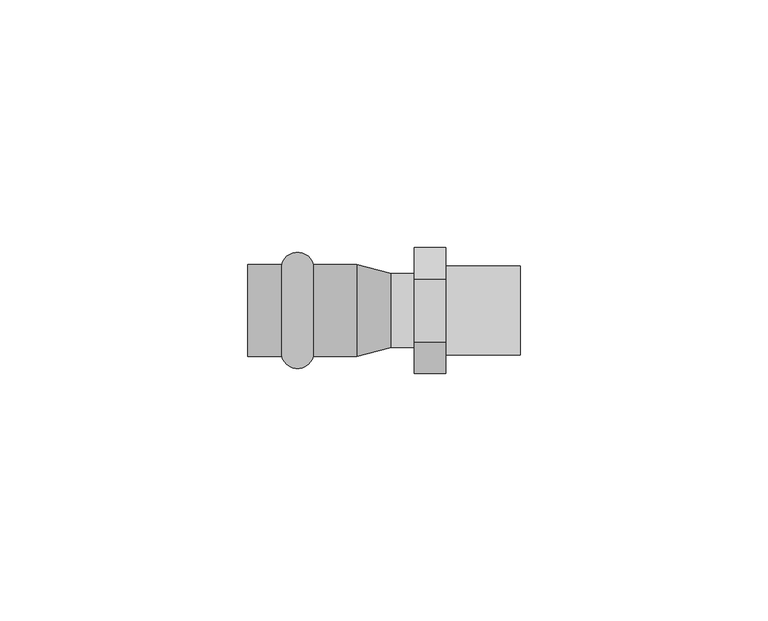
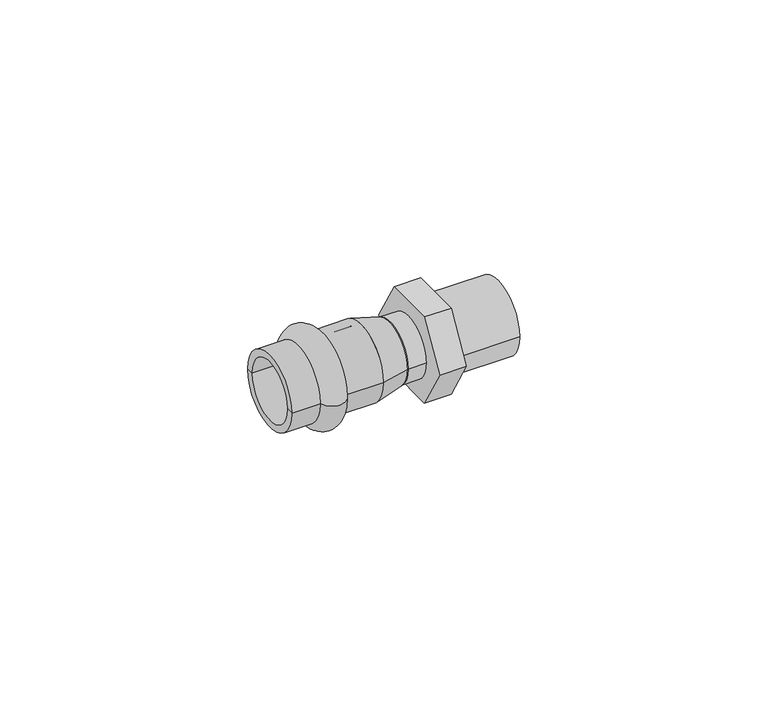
"""IFC4 building model written with IfcOpenShell, lengths in millimetres: pipe fitting geometry, VALTEC_VTi.901.I_Соединитель прямой с переходом на наружную резьбу_Нержавеющая сталь : VTi.901.I."""

from ifc_helpers import new_model, si_unit, point, frame, origin, origin_2d, place, context, project, spatial, polyline, circle_curve, ellipse_curve, trimmed, segment, composite_curve, outline, extrude, source, transform, mapped, element, save
from ifc_brep_helpers import plane_surface, cylinder_surface, revolved_surface, advanced_brep


def pipe_fitting_d21aeb0e(model_context):
    return source(origin(), model_context, "Body", "SolidModel", [
        advanced_brep(
        [(-29.9072777, -9.25, 0.0), (-29.9072777, 9.25, 0.0), (-23.5827223, 9.25, 0.0), (-23.5827223, -9.25, 0.0), (-36.795, -9.25, 0.0), (-36.795, 9.25, 0.0), (-36.795, -7.5, 0.0), (-36.795, 7.5, 0.0), (-14.795, -7.5, 0.0), (-14.795, 7.5, 0.0), (-14.795, -9.25, 0.0), (-14.795, 9.25, 0.0)],
        [
            (0, 1, circle_curve(frame((-29.9072777, 0.0, 0.0), z_axis=(1.0, 0.0, 0.0), x_axis=(0.0, 1.0, 0.0)), 9.25)),
            (1, 2, circle_curve(frame((-26.745, 8.5, 0.0), z_axis=(0.0, 0.0, -1.0), x_axis=(1.0, 0.0, 0.0)), 3.25)),
            (2, 3, circle_curve(frame((-23.5827223, 0.0, 0.0), z_axis=(-1.0, 0.0, 0.0), x_axis=(0.0, 1.0, 0.0)), 9.25)),
            (3, 0, circle_curve(frame((-26.745, -8.5, 0.0), z_axis=(0.0, 0.0, -1.0), x_axis=(1.0, 0.0, 0.0)), 3.25)),
            (1, 0, circle_curve(frame((-29.9072777, 0.0, 0.0), z_axis=(1.0, 0.0, 0.0), x_axis=(0.0, 1.0, 0.0)), 9.25)),
            (3, 2, circle_curve(frame((-23.5827223, 0.0, 0.0), z_axis=(-1.0, 0.0, 0.0), x_axis=(0.0, 1.0, 0.0)), 9.25)),
            (4, 5, circle_curve(frame((-36.795, 0.0, 0.0), z_axis=(1.0, 0.0, 0.0), x_axis=(0.0, 1.0, 0.0)), 9.25)),
            (5, 1),
            (0, 4),
            (5, 4, circle_curve(frame((-36.795, 0.0, 0.0), z_axis=(1.0, 0.0, 0.0), x_axis=(0.0, 1.0, 0.0)), 9.25)),
            (6, 7, circle_curve(frame((-36.795, 0.0, 0.0), z_axis=(1.0, 0.0, 0.0), x_axis=(0.0, 1.0, 0.0)), 7.5)),
            (7, 5),
            (4, 6),
            (7, 6, circle_curve(frame((-36.795, 0.0, 0.0), z_axis=(1.0, 0.0, 0.0), x_axis=(0.0, 1.0, 0.0)), 7.5)),
            (8, 9, circle_curve(frame((-14.795, 0.0, 0.0), z_axis=(1.0, 0.0, 0.0), x_axis=(0.0, 1.0, 0.0)), 7.5)),
            (9, 7),
            (6, 8),
            (9, 8, circle_curve(frame((-14.795, 0.0, 0.0), z_axis=(1.0, 0.0, 0.0), x_axis=(0.0, 1.0, 0.0)), 7.5)),
            (10, 11, circle_curve(frame((-14.795, 0.0, 0.0), z_axis=(1.0, 0.0, 0.0), x_axis=(0.0, 1.0, 0.0)), 9.25)),
            (11, 9),
            (8, 10),
            (11, 10, circle_curve(frame((-14.795, 0.0, 0.0), z_axis=(1.0, 0.0, 0.0), x_axis=(0.0, 1.0, 0.0)), 9.25)),
            (2, 11),
            (10, 3),
        ],
        [
            revolved_surface(trimmed(ellipse_curve(frame((-26.745, 8.5, 0.0), z_axis=(0.0, 0.0, 1.0), x_axis=(1.0, 0.0, 0.0)), 3.25, 3.25), [point((-23.5827223, 9.25, 0.0))], [point((-29.9072777, 9.25, 0.0))], True, "CARTESIAN"), (-40.3314426, 0.0, 0.0), (-1.0, 0.0, 0.0)),
            cylinder_surface(frame((-40.3314426, 0.0, 0.0), z_axis=(-1.0, 0.0, 0.0), x_axis=(0.0, 1.0, 0.0)), 9.25),
            plane_surface(frame((-36.795, 0.0, 0.0), z_axis=(-1.0, 0.0, 0.0), x_axis=(0.0, 1.0, 0.0))),
            revolved_surface(polyline([(-36.795, 7.5, 0.0), (-14.795000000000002, 7.5, 0.0)]), (-40.3314426, 0.0, 0.0), (-1.0, 0.0, 0.0)),
            plane_surface(frame((-14.795, 0.0, 0.0), z_axis=(1.0, 0.0, 0.0), x_axis=(0.0, 1.0, 0.0))),
        ],
        [
            (0, [[1, 2, 3, 4]]),
            (0, [[5, -4, 6, -2]]),
            (1, [[7, 8, -1, 9]]),
            (1, [[10, -9, -5, -8]]),
            (2, [[11, 12, -7, 13]]),
            (2, [[14, -13, -10, -12]]),
            (3, [[15, 16, -11, 17]]),
            (3, [[18, -17, -14, -16]]),
            (4, [[19, 20, -15, 21]]),
            (4, [[22, -21, -18, -20]]),
            (1, [[-3, 23, -19, 24]]),
            (1, [[-6, -24, -22, -23]]),
        ],
    ),
        extrude(outline(polyline([(-12.7017059, 0.0), (-6.350853, 11.0), (6.350853, 11.0), (12.7017059, 0.0), (6.350853, -11.0), (-6.350853, -11.0), (-12.7017059, 0.0)])), frame((-3.205, 0.0, 0.0), z_axis=(1.0, 0.0, 0.0), x_axis=(0.0, 1.0, 0.0)), (0.0, 0.0, 1.0), 6.41),
        extrude(outline(composite_curve([segment(trimmed(circle_curve(origin_2d(), 7.5), [point((-7.5, 0.0))], [point((7.5, 0.0))], False, "CARTESIAN"), True, "CONTINUOUS"), segment(trimmed(circle_curve(origin_2d(), 7.5), [point((7.5, 0.0))], [point((-7.5, 0.0))], False, "CARTESIAN"), True, "CONTINUOUS")], self_intersect=False)), frame((-7.8183127, 0.0, 0.0), z_axis=(1.0, 0.0, 0.0), x_axis=(0.0, 1.0, 0.0)), (0.0, 0.0, 1.0), 4.6133127),
        advanced_brep(
        [(-14.795, -9.25, 0.0), (-14.795, 9.25, 0.0), (-7.8183127, -7.5, 0.0), (-7.8183127, 7.5, 0.0)],
        [
            (0, 1, circle_curve(frame((-14.795, 0.0, 0.0), z_axis=(-1.0, 0.0, 0.0), x_axis=(0.0, -1.0, 0.0)), 9.25)),
            (1, 0, circle_curve(frame((-14.795, 0.0, 0.0), z_axis=(-1.0, 0.0, 0.0), x_axis=(0.0, 1.0, 0.0)), 9.25)),
            (2, 3, circle_curve(frame((-7.8183127, 0.0, 0.0), z_axis=(1.0, 0.0, 0.0), x_axis=(0.0, 1.0, 0.0)), 7.5)),
            (3, 2, circle_curve(frame((-7.8183127, 0.0, 0.0), z_axis=(1.0, 0.0, 0.0), x_axis=(0.0, -1.0, 0.0)), 7.5)),
            (2, 0),
            (1, 3),
        ],
        [
            plane_surface(frame((-14.795, 0.0, 0.0), z_axis=(-1.0, 0.0, 0.0), x_axis=(0.0, 0.0, -1.0))),
            plane_surface(frame((-7.8183127, 0.0, 0.0), z_axis=(1.0, 0.0, 0.0), x_axis=(0.0, 0.0, -1.0))),
            revolved_surface(polyline([(-7.8183127, -7.500000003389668, 0.0), (-14.794999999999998, -9.25, 0.0)]), (22.0817758, 0.0, 0.0), (-1.0, 0.0, 0.0)),
            revolved_surface(polyline([(-7.8183127, 7.500000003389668, 0.0), (-14.794999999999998, 9.25, 0.0)]), (22.0817758, 0.0, 0.0), (-1.0, 0.0, 0.0)),
        ],
        [
            (0, [[1, 2]]),
            (1, [[3, 4]]),
            (2, [[-3, 5, -2, 6]]),
            (3, [[-4, -6, -1, -5]]),
        ],
    ),
        extrude(outline(composite_curve([segment(trimmed(circle_curve(origin_2d(), 9.0), [point((-9.0, 0.0))], [point((9.0, 0.0))], False, "CARTESIAN"), True, "CONTINUOUS"), segment(trimmed(circle_curve(origin_2d(), 9.0), [point((9.0, 0.0))], [point((-9.0, 0.0))], False, "CARTESIAN"), True, "CONTINUOUS")], self_intersect=False), holes=[composite_curve([segment(trimmed(circle_curve(origin_2d(), 7.5), [point((-7.5, 0.0))], [point((7.5, 0.0))], True, "CARTESIAN"), True, "CONTINUOUS"), segment(trimmed(circle_curve(origin_2d(), 7.5), [point((7.5, 0.0))], [point((-7.5, 0.0))], True, "CARTESIAN"), True, "CONTINUOUS")], self_intersect=False)]), frame((3.205, 0.0, 0.0), z_axis=(1.0, 0.0, 0.0), x_axis=(0.0, 1.0, 0.0)), (0.0, 0.0, 1.0), 15.0),
    ])


if __name__ == "__main__":
    model = new_model("IFC4")
    model_context = context("Model", 3, world=origin())
    ifc_project = project(units=[si_unit("LENGTHUNIT", "METRE", prefix="MILLI")], contexts=[model_context])
    site = spatial("IfcSite", under=ifc_project)
    building = spatial("IfcBuilding", under=site)
    placement = place(None, origin())
    pipe_fitting_shape = pipe_fitting_d21aeb0e(model_context)
    element("IfcPipeFitting", 1, ObjectType="VALTEC_VTi.901.I_Соединитель прямой с переходом на наружную резьбу_Нержавеющая сталь : VTi.901.I", at=placement, inside=building, context=model_context, shape_type="MappedRepresentation", body=[
        mapped(pipe_fitting_shape, transform((0.0, 0.0, 0.0), x_axis=(1.0, 0.0, 0.0), y_axis=(0.0, 1.0, 0.0), z_axis=(0.0, 0.0, 1.0))),
    ])
    save(model, "model.ifc")
